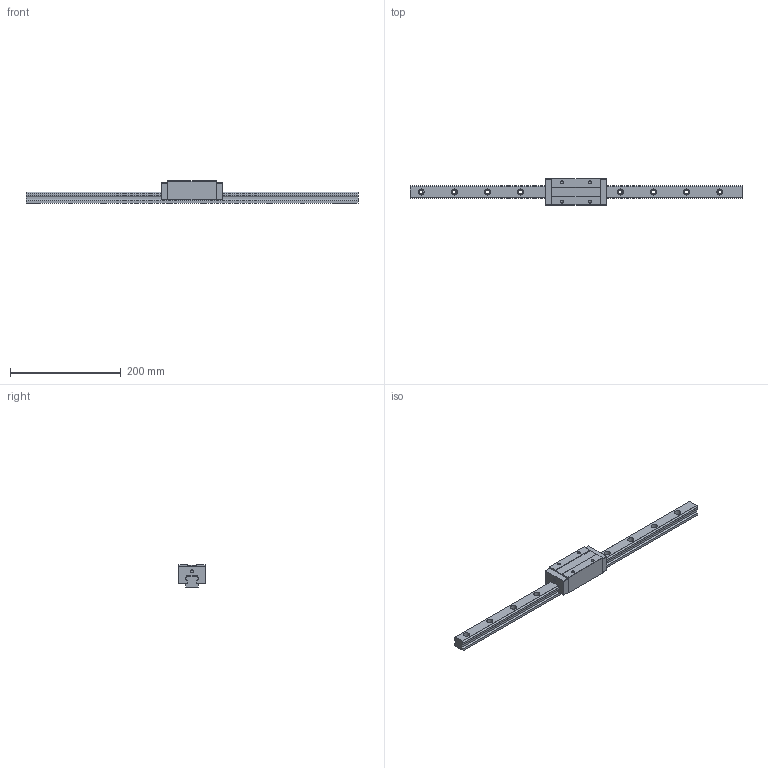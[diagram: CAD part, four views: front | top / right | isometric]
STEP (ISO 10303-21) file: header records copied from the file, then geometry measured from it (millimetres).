
FILE_DESCRIPTION(/* description */ (''),/* implementation_level */ '2;1');
FILE_NAME(/* name */ 'TRH25VE-XN.stp',/* time_stamp */ '2017-10-25T15:06:28+08:00',/* author */ (''),/* organization */ (''),/* preprocessor_version */ 'ST-DEVELOPER v11',/* originating_system */ 'SIEMENS UGS NX 6.0',/* authorisation */ '');
FILE_SCHEMA (('AUTOMOTIVE_DESIGN { 1 0 10303 214 1 1 1 1 }'));
Length unit declared in the file: millimetre
Products named in the file (1): TRH25VE-XN
Bounding box: 600 x 48 x 40 mm (x, y, z)
Volume: 377234.2 mm3; surface area: 83506.6 mm2
Topology: 2 solids, 2 shells, 130 faces, 332 edges, 218 vertices
Faces by surface type: plane 76, cylinder 46, cone 8
Full cylindrical faces by diameter (mm): 5 x6, 7 x10, 11 x10
Entity records: 4218 total; most frequent: DIRECTION 638, CARTESIAN_POINT 615, ORIENTED_EDGE 560, EDGE_CURVE 280, AXIS2_PLACEMENT_3D 227, VERTEX_POINT 204, EDGE_LOOP 196, LINE 184
